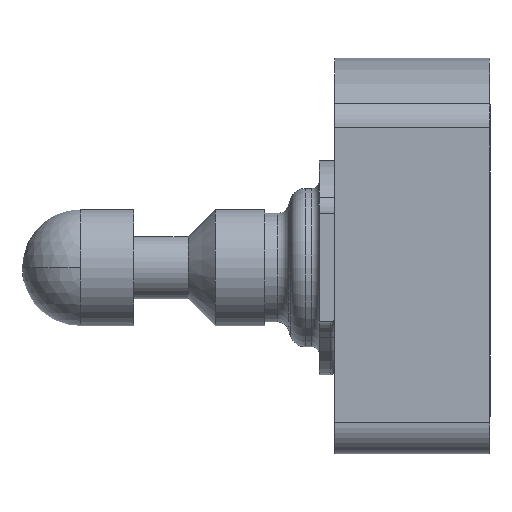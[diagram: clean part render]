
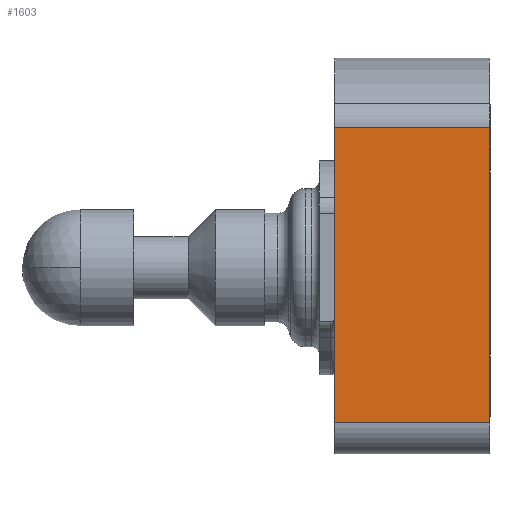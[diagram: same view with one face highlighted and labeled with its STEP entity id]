
A CAD part, left-side view. The second image highlights one B-rep face of the part: STEP entity #1603.
In plain terms, the highlighted planar face has unit normal (-1, 0, 0).
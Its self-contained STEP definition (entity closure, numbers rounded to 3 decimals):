
#233 = FACE_OUTER_BOUND ( 'NONE', #2073, .T. ) ;
#569 = VERTEX_POINT ( 'NONE', #5391 ) ;
#750 = VECTOR ( 'NONE', #6154, 1000. ) ;
#770 = AXIS2_PLACEMENT_3D ( 'NONE', #6284, #5476, #1363 ) ;
#1035 = LINE ( 'NONE', #6202, #5522 ) ;
#1233 = EDGE_CURVE ( 'NONE', #1374, #2304, #1035, .T. ) ;
#1363 = DIRECTION ( 'NONE',  ( 0., 0., 1. ) ) ;
#1374 = VERTEX_POINT ( 'NONE', #3701 ) ;
#1578 = DIRECTION ( 'NONE',  ( 0., 0., 1. ) ) ;
#1603 = ADVANCED_FACE ( 'NONE', ( #233 ), #3102, .T. ) ;
#1635 = ORIENTED_EDGE ( 'NONE', *, *, #1233, .F. ) ;
#1779 = EDGE_CURVE ( 'NONE', #1374, #4891, #2194, .T. ) ;
#2073 = EDGE_LOOP ( 'NONE', ( #6823, #1635, #2989, #7370 ) ) ;
#2194 = LINE ( 'NONE', #5301, #5147 ) ;
#2266 = LINE ( 'NONE', #3768, #750 ) ;
#2304 = VERTEX_POINT ( 'NONE', #7102 ) ;
#2989 = ORIENTED_EDGE ( 'NONE', *, *, #1779, .T. ) ;
#3050 = EDGE_CURVE ( 'NONE', #4891, #569, #2266, .T. ) ;
#3102 = PLANE ( 'NONE',  #770 ) ;
#3299 = VECTOR ( 'NONE', #1578, 1000. ) ;
#3701 = CARTESIAN_POINT ( 'NONE',  ( -18., -20., -20. ) ) ;
#3768 = CARTESIAN_POINT ( 'NONE',  ( -18., -20., 18. ) ) ;
#4068 = DIRECTION ( 'NONE',  ( 0., 1., 0. ) ) ;
#4891 = VERTEX_POINT ( 'NONE', #5956 ) ;
#5103 = CARTESIAN_POINT ( 'NONE',  ( -18., 0., -20. ) ) ;
#5147 = VECTOR ( 'NONE', #7390, 1000. ) ;
#5301 = CARTESIAN_POINT ( 'NONE',  ( -18., -20., -20. ) ) ;
#5391 = CARTESIAN_POINT ( 'NONE',  ( -18., 0., 18. ) ) ;
#5476 = DIRECTION ( 'NONE',  ( -1., 0., 0. ) ) ;
#5522 = VECTOR ( 'NONE', #4068, 1000. ) ;
#5956 = CARTESIAN_POINT ( 'NONE',  ( -18., -20., 18. ) ) ;
#6154 = DIRECTION ( 'NONE',  ( 0., 1., 0. ) ) ;
#6202 = CARTESIAN_POINT ( 'NONE',  ( -18., -20., -20. ) ) ;
#6284 = CARTESIAN_POINT ( 'NONE',  ( -18., -20., -20. ) ) ;
#6448 = LINE ( 'NONE', #5103, #3299 ) ;
#6823 = ORIENTED_EDGE ( 'NONE', *, *, #7256, .F. ) ;
#7102 = CARTESIAN_POINT ( 'NONE',  ( -18., 0., -20. ) ) ;
#7256 = EDGE_CURVE ( 'NONE', #2304, #569, #6448, .T. ) ;
#7370 = ORIENTED_EDGE ( 'NONE', *, *, #3050, .T. ) ;
#7390 = DIRECTION ( 'NONE',  ( 0., 0., 1. ) ) ;
